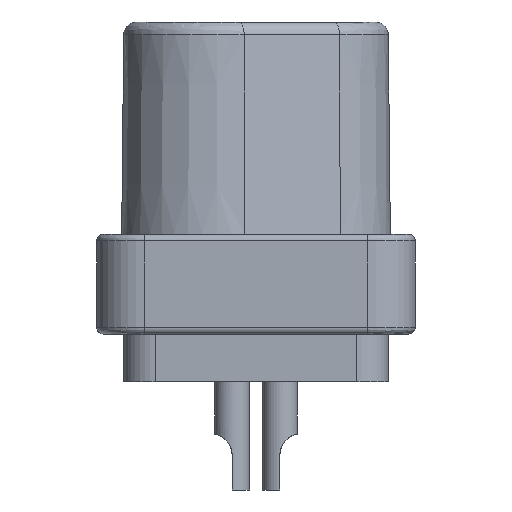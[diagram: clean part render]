
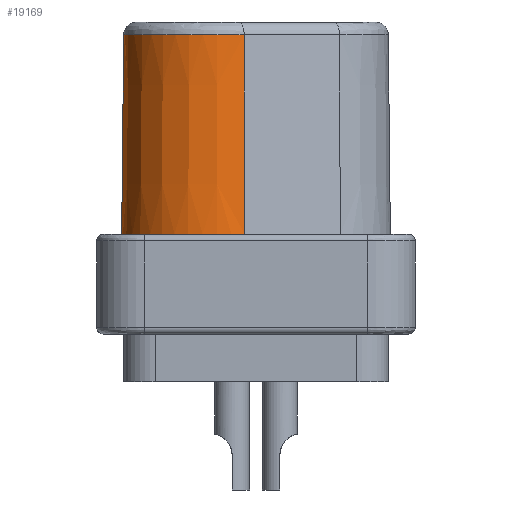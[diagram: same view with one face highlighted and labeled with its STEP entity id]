
A CAD part, left-side view. The second image highlights one B-rep face of the part: STEP entity #19169.
In plain terms, the highlighted conical face has half-angle 0.585 degrees and reference radius 2 mm.
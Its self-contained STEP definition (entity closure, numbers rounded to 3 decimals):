
#288 = CARTESIAN_POINT ( 'NONE',  ( -10.013, 0.255, -4.9 ) ) ;
#609 = B_SPLINE_CURVE_WITH_KNOTS ( 'NONE', 1,
 ( #7931, #28269 ),
 .UNSPECIFIED., .F., .F.,
 ( 2, 2 ),
 ( 0., 1. ),
 .UNSPECIFIED. ) ;
#690 = EDGE_CURVE ( 'NONE', #14356, #22112, #19423, .T. ) ;
#1919 = EDGE_CURVE ( 'NONE', #14356, #4767, #609, .T. ) ;
#1920 = DIRECTION ( 'NONE',  ( 0.037, 0.999, 0. ) ) ;
#1960 = DIRECTION ( 'NONE',  ( 0., 0., -1. ) ) ;
#2000 = EDGE_CURVE ( 'NONE', #4767, #14046, #18609, .T. ) ;
#2667 = CARTESIAN_POINT ( 'NONE',  ( -8.2, 3.053, -0.297 ) ) ;
#2976 = CARTESIAN_POINT ( 'NONE',  ( -8.2, 3.1, -4.9 ) ) ;
#4743 = CARTESIAN_POINT ( 'NONE',  ( -10.013, 0.255, -4.9 ) ) ;
#4767 = VERTEX_POINT ( 'NONE', #2976 ) ;
#6850 = ORIENTED_EDGE ( 'NONE', *, *, #12820, .T. ) ;
#7931 = CARTESIAN_POINT ( 'NONE',  ( -8.2, 3.053, -0.297 ) ) ;
#8274 = AXIS2_PLACEMENT_3D ( 'NONE', #25741, #1960, #25192 ) ;
#8409 = AXIS2_PLACEMENT_3D ( 'NONE', #17169, #25981, #1920 ) ;
#8564 = FACE_OUTER_BOUND ( 'NONE', #15120, .T. ) ;
#8735 = CONICAL_SURFACE ( 'NONE', #8274, 2., 0.01 ) ;
#12820 = EDGE_CURVE ( 'NONE', #14046, #22112, #27562, .T. ) ;
#14046 = VERTEX_POINT ( 'NONE', #4743 ) ;
#14356 = VERTEX_POINT ( 'NONE', #2667 ) ;
#14717 = CARTESIAN_POINT ( 'NONE',  ( -8.2, 1.1, -4.9 ) ) ;
#15120 = EDGE_LOOP ( 'NONE', ( #6850, #18420, #25143, #19352 ) ) ;
#17169 = CARTESIAN_POINT ( 'NONE',  ( -8.2, 1.1, -0.297 ) ) ;
#18420 = ORIENTED_EDGE ( 'NONE', *, *, #690, .F. ) ;
#18609 = CIRCLE ( 'NONE', #22289, 2. ) ;
#19006 = CARTESIAN_POINT ( 'NONE',  ( -9.97, 0.275, -0.297 ) ) ;
#19169 = ADVANCED_FACE ( 'NONE', ( #8564 ), #8735, .T. ) ;
#19352 = ORIENTED_EDGE ( 'NONE', *, *, #2000, .T. ) ;
#19423 = CIRCLE ( 'NONE', #8409, 1.953 ) ;
#22112 = VERTEX_POINT ( 'NONE', #19006 ) ;
#22289 = AXIS2_PLACEMENT_3D ( 'NONE', #14717, #25537, #23917 ) ;
#23917 = DIRECTION ( 'NONE',  ( -1., 0., 0. ) ) ;
#25143 = ORIENTED_EDGE ( 'NONE', *, *, #1919, .T. ) ;
#25192 = DIRECTION ( 'NONE',  ( -1., 0., 0. ) ) ;
#25537 = DIRECTION ( 'NONE',  ( 0., 0., 1. ) ) ;
#25741 = CARTESIAN_POINT ( 'NONE',  ( -8.2, 1.1, -4.9 ) ) ;
#25981 = DIRECTION ( 'NONE',  ( 0., 0., 1. ) ) ;
#26629 = CARTESIAN_POINT ( 'NONE',  ( -9.97, 0.275, -0.297 ) ) ;
#27562 = B_SPLINE_CURVE_WITH_KNOTS ( 'NONE', 1,
 ( #288, #26629 ),
 .UNSPECIFIED., .F., .F.,
 ( 2, 2 ),
 ( 0., 1. ),
 .UNSPECIFIED. ) ;
#28269 = CARTESIAN_POINT ( 'NONE',  ( -8.2, 3.1, -4.9 ) ) ;
